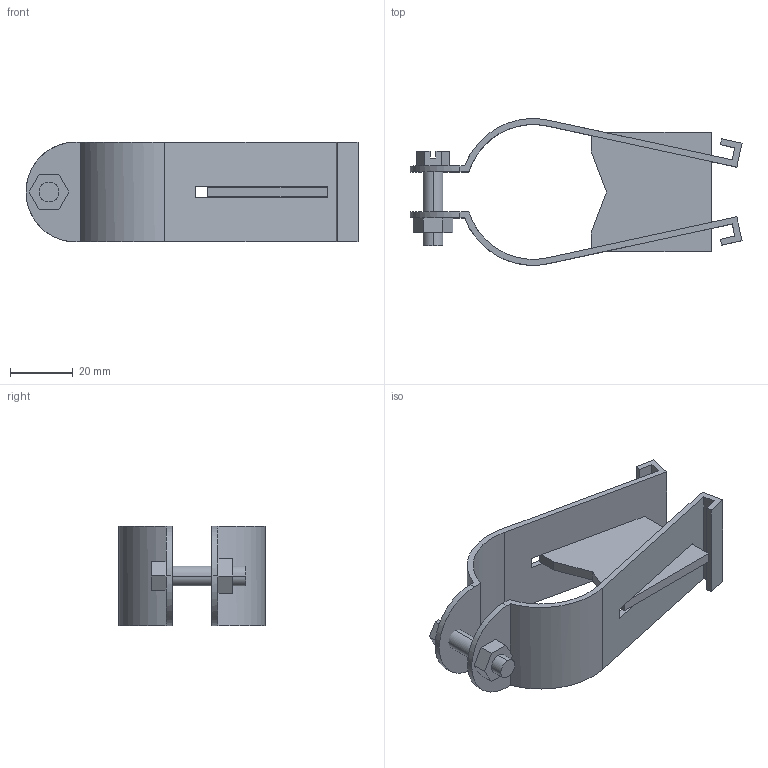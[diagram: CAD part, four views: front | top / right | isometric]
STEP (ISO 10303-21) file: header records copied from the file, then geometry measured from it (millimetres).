
FILE_DESCRIPTION(('TurboCAD Mac Pro'),'Build 980');
FILE_NAME('P1567.stp',' ',(''),(''),'ACIS Interop','IMSI','TurboCAD Mac Pro BY IMSI, INCORPORATED');
FILE_SCHEMA(('automotive_design'));
Length unit declared in the file: inch
Products named in the file (5): 1; 2; 3; 4; 5
Bounding box: 105.52 x 46.56 x 31.74 mm (x, y, z)
Volume: 19686.4 mm3; surface area: 20526.3 mm2
Topology: 5 solids, 5 shells, 76 faces, 195 edges, 130 vertices
Faces by surface type: plane 60, bspline 16
Entity records: 3916 total; most frequent: CARTESIAN_POINT 614, ORIENTED_EDGE 390, DIRECTION 293, STYLED_ITEM 246, PRESENTATION_STYLE_ASSIGNMENT 246, COLOUR_RGB 246, EDGE_CURVE 195, CURVE_STYLE 165
